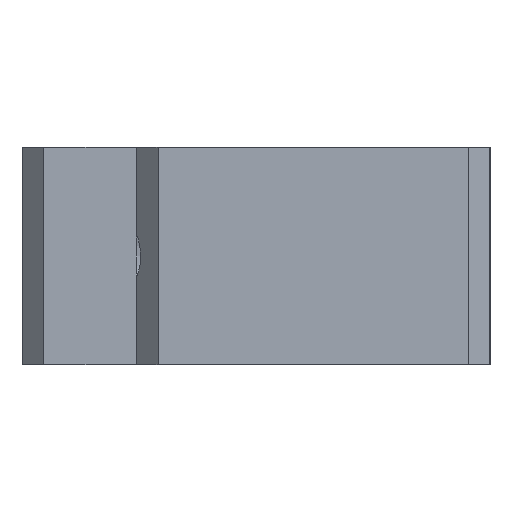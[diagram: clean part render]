
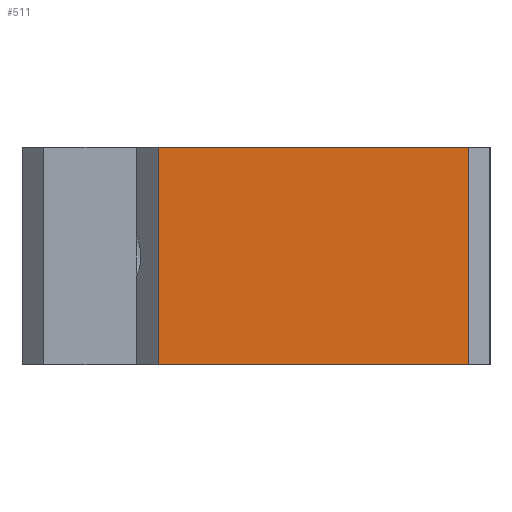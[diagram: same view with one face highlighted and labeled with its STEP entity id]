
A CAD part, left-side view. The second image highlights one B-rep face of the part: STEP entity #511.
In plain terms, the highlighted planar face has unit normal (-1, 0, 0).
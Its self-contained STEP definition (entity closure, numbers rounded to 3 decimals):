
#483 = EDGE_CURVE ( 'NONE', #16554, #6480, #5556, .T. ) ;
#511 = ADVANCED_FACE ( 'NONE', ( #3794 ), #10164, .F. ) ;
#1121 = EDGE_CURVE ( 'NONE', #12145, #16554, #19055, .T. ) ;
#1969 = ORIENTED_EDGE ( 'NONE', *, *, #1121, .F. ) ;
#2046 = VECTOR ( 'NONE', #9401, 1000. ) ;
#2231 = CARTESIAN_POINT ( 'NONE',  ( -61.38, -18.771, 10. ) ) ;
#3769 = VECTOR ( 'NONE', #18519, 1000. ) ;
#3794 = FACE_OUTER_BOUND ( 'NONE', #11006, .T. ) ;
#4038 = LINE ( 'NONE', #12171, #3769 ) ;
#4219 = VECTOR ( 'NONE', #8343, 1000. ) ;
#4790 = CARTESIAN_POINT ( 'NONE',  ( -61.38, -18.771, 10. ) ) ;
#5302 = EDGE_CURVE ( 'NONE', #10039, #12145, #4038, .T. ) ;
#5556 = LINE ( 'NONE', #14854, #17001 ) ;
#6480 = VERTEX_POINT ( 'NONE', #16519 ) ;
#7316 = ORIENTED_EDGE ( 'NONE', *, *, #5302, .F. ) ;
#7999 = AXIS2_PLACEMENT_3D ( 'NONE', #16731, #11731, #8816 ) ;
#8343 = DIRECTION ( 'NONE',  ( 0., 1., 0. ) ) ;
#8442 = ORIENTED_EDGE ( 'NONE', *, *, #10089, .F. ) ;
#8816 = DIRECTION ( 'NONE',  ( 0., 1., 0. ) ) ;
#9401 = DIRECTION ( 'NONE',  ( 0., -1., 0. ) ) ;
#10039 = VERTEX_POINT ( 'NONE', #14726 ) ;
#10089 = EDGE_CURVE ( 'NONE', #6480, #10039, #14266, .T. ) ;
#10106 = ORIENTED_EDGE ( 'NONE', *, *, #483, .F. ) ;
#10164 = PLANE ( 'NONE',  #7999 ) ;
#11006 = EDGE_LOOP ( 'NONE', ( #1969, #7316, #8442, #10106 ) ) ;
#11731 = DIRECTION ( 'NONE',  ( 1., 0., 0. ) ) ;
#11829 = DIRECTION ( 'NONE',  ( 0., 0., -1. ) ) ;
#12145 = VERTEX_POINT ( 'NONE', #19654 ) ;
#12171 = CARTESIAN_POINT ( 'NONE',  ( -61.38, 9.729, 10. ) ) ;
#14266 = LINE ( 'NONE', #17611, #4219 ) ;
#14726 = CARTESIAN_POINT ( 'NONE',  ( -61.38, 9.729, -10. ) ) ;
#14854 = CARTESIAN_POINT ( 'NONE',  ( -61.38, -18.771, 10. ) ) ;
#16519 = CARTESIAN_POINT ( 'NONE',  ( -61.38, -18.771, -10. ) ) ;
#16554 = VERTEX_POINT ( 'NONE', #2231 ) ;
#16731 = CARTESIAN_POINT ( 'NONE',  ( -61.38, -18.771, 10. ) ) ;
#17001 = VECTOR ( 'NONE', #11829, 1000. ) ;
#17611 = CARTESIAN_POINT ( 'NONE',  ( -61.38, 22.229, -10. ) ) ;
#18519 = DIRECTION ( 'NONE',  ( 0., 0., 1. ) ) ;
#19055 = LINE ( 'NONE', #4790, #2046 ) ;
#19654 = CARTESIAN_POINT ( 'NONE',  ( -61.38, 9.729, 10. ) ) ;
